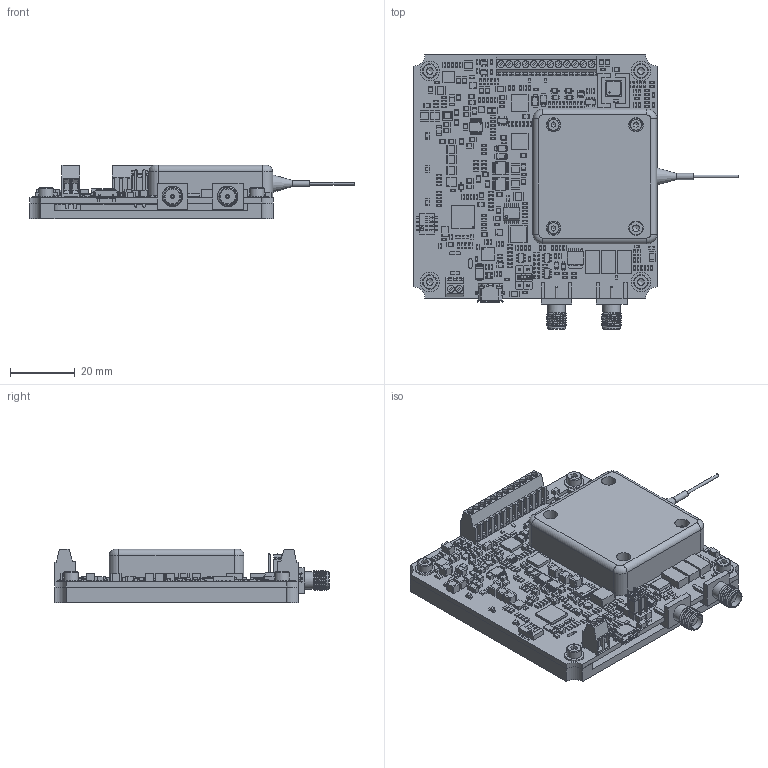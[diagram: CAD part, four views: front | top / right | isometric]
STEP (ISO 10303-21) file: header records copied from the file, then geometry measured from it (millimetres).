
FILE_DESCRIPTION(/* description */ ('STEP AP214','CAx-IF Rec.Pracs.---User Defined Attributes---1.5---2016-08-15'),/* implementation_level */ '2;1');
FILE_NAME(/* name */ '6a4cf6469cb2352186a6d4a2',/* time_stamp */ '2026-07-07T12:51:31Z',/* author */ (''),/* organization */ (''),/* preprocessor_version */ 'ST-DEVELOPER v20',/* originating_system */ 'ONSHAPE BY PTC INC, 1.217',/* authorisation */ ' ');
FILE_SCHEMA (('AUTOMOTIVE_DESIGN {1 0 10303 214 3 1 1}'));
Products named in the file (1198): CTL200-LP; UDFN8; R0603_63; R0603_45; QFN20_4x4; R0603_59; C0603_14; C0603_45; C0603_36; R0603; 1-282834-2; MSOP12_1; R0603_61; MSOP12; R0603_64; R0603_100; R0603_48; C1210_8; MCDHN-04F-T-V; MicroSip8; C0603_65; R0603_79; R0603_114; C0805_21; Open CASCADE STEP translator 6.8 1.133.1.1.8; QFN48_7x7; SOT-323-5_1; R0603_109; SOD-323_3; R0603_35; L0805_4; C0805_9; R0603_69; SOT-23-6_1; Hex socket head cap screw M2x0.40 x 5; R0603_25; C0603_26; C0603_60; SOT-323-6_1; R0603_80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
Assembly tree (1208 placements, depth 2):
  CTL200-LP
    UDFN8
    R0603_63
    R0603_45
    QFN20_4x4
    R0603_59
    C0603_14
    C0603_45
    C0603_36
    R0603
    1-282834-2
    MSOP12_1
    R0603_61
    MSOP12
    QFN20_4x4
    R0603_64
    R0603_100
    R0603_48
    C1210_8
    MCDHN-04F-T-V
    MicroSip8
    C0603_65
    R0603_79
    R0603_114
    C0805_21
    Open CASCADE STEP translator 6.8 1.133.1.1.8
    QFN48_7x7
    SOT-323-5_1
    R0603_109
    SOD-323_3
    R0603_35
    QFN48_7x7
    L0805_4
    C0805_9
    QFN48_7x7
    R0603_69
    QFN48_7x7
    C0805_9
    SOD-323_3
    SOT-23-6_1
    MCDHN-04F-T-V
    Hex socket head cap screw M2x0.40 x 5  x4
    R0603_25
    MSOP12
    C0603_26
    C0603_60
    SOT-323-6_1
    R0603_80
    C0805_10
    LCC-8
    C1210_5
    SOT-23-5
    C0603_4
    L1206
    R0603_31
    C1210_2
    R0603_3
    C0603_2
    C0603_34
    Open CASCADE STEP translator 6.8 1.133.1.1.6
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Bounding box: 100.03 x 84.53 x 16.48 mm (x, y, z)
Volume: 44041.6 mm3; surface area: 45993.1 mm2
Topology: 1208 solids, 1208 shells, 11268 faces, 25991 edges, 17181 vertices
Faces by surface type: plane 9794, cylinder 1326, cone 59, torus 40, bspline 29, sphere 20
Full cylindrical faces by diameter (mm): 0.207 x4, 0.216 x1, 0.25 x11, 0.3 x3, 0.35 x6, 0.368 x1, 0.4 x4, 0.75 x2, 0.76 x2, 0.9 x19, 1 x14, 1.016 x4, 1.2 x4, 1.25 x2, 1.27 x2, 1.6 x8, 1.9 x1, 2 x7, 2.05 x4, 2.1 x26, 2.4 x8, 2.5 x8, 2.7 x8, 2.85 x4, 2.9 x2, 3.8 x7, 4.25 x2, 4.4 x4, 4.5 x5, 4.63 x2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
Entity records: 341385 total; most frequent: CARTESIAN_POINT 56987, DIRECTION 52289, ORIENTED_EDGE 50566, EDGE_CURVE 25283, LINE 22325, VECTOR 22325, VERTEX_POINT 16842, AXIS2_PLACEMENT_3D 14982
